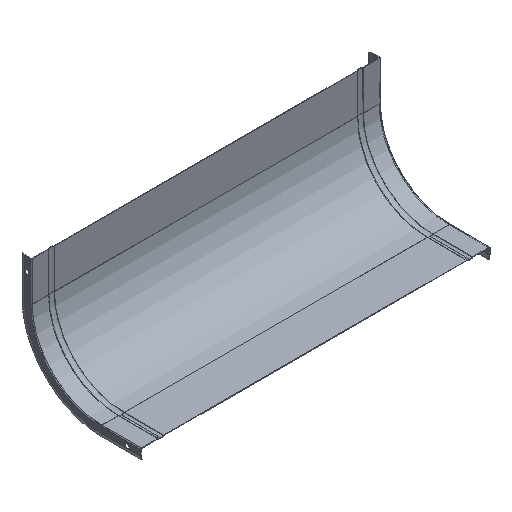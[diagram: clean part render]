
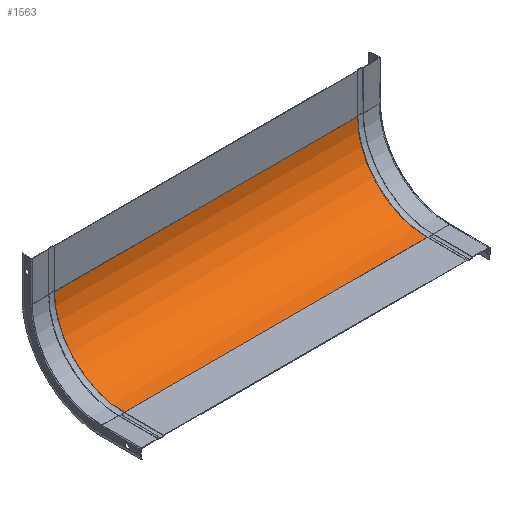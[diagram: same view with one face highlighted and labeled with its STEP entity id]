
A CAD part, isometric view. The second image highlights one B-rep face of the part: STEP entity #1563.
In plain terms, the highlighted cylindrical face has radius 100 mm (diameter 200 mm), a partial arc.
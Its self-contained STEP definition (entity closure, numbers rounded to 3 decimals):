
#23 = ORIENTED_EDGE ( 'NONE', *, *, #2427, .F. ) ;
#51 = CARTESIAN_POINT ( 'NONE',  ( -218., -100., -157. ) ) ;
#184 = DIRECTION ( 'NONE',  ( 0., 0., 1. ) ) ;
#185 = ORIENTED_EDGE ( 'NONE', *, *, #2316, .F. ) ;
#324 = ORIENTED_EDGE ( 'NONE', *, *, #722, .T. ) ;
#405 = CARTESIAN_POINT ( 'NONE',  ( -218., -100., -57. ) ) ;
#435 = CARTESIAN_POINT ( 'NONE',  ( -218., 0., -57. ) ) ;
#437 = CARTESIAN_POINT ( 'NONE',  ( -218., 0., -57. ) ) ;
#540 = DIRECTION ( 'NONE',  ( -1., 0., 0. ) ) ;
#722 = EDGE_CURVE ( 'NONE', #1376, #2277, #1115, .T. ) ;
#784 = AXIS2_PLACEMENT_3D ( 'NONE', #1150, #965, #184 ) ;
#824 = CARTESIAN_POINT ( 'NONE',  ( 218., -100., -157. ) ) ;
#838 = CIRCLE ( 'NONE', #1420, 100. ) ;
#889 = VERTEX_POINT ( 'NONE', #824 ) ;
#965 = DIRECTION ( 'NONE',  ( -1., 0., 0. ) ) ;
#1017 = CARTESIAN_POINT ( 'NONE',  ( -218., -100., -157. ) ) ;
#1030 = DIRECTION ( 'NONE',  ( 1., 0., 0. ) ) ;
#1085 = DIRECTION ( 'NONE',  ( 0., 0., 1. ) ) ;
#1115 = CIRCLE ( 'NONE', #1867, 100. ) ;
#1150 = CARTESIAN_POINT ( 'NONE',  ( 0., -100., -57. ) ) ;
#1174 = CARTESIAN_POINT ( 'NONE',  ( 218., -100., -57. ) ) ;
#1376 = VERTEX_POINT ( 'NONE', #435 ) ;
#1420 = AXIS2_PLACEMENT_3D ( 'NONE', #1174, #2320, #1085 ) ;
#1508 = VECTOR ( 'NONE', #1030, 1000. ) ;
#1563 = ADVANCED_FACE ( 'NONE', ( #2576 ), #2165, .F. ) ;
#1566 = EDGE_LOOP ( 'NONE', ( #185, #324, #1743, #23 ) ) ;
#1743 = ORIENTED_EDGE ( 'NONE', *, *, #2271, .T. ) ;
#1822 = DIRECTION ( 'NONE',  ( 0., 0., 1. ) ) ;
#1867 = AXIS2_PLACEMENT_3D ( 'NONE', #405, #540, #1822 ) ;
#2019 = VECTOR ( 'NONE', #2037, 1000. ) ;
#2037 = DIRECTION ( 'NONE',  ( 1., 0., 0. ) ) ;
#2048 = LINE ( 'NONE', #1017, #1508 ) ;
#2071 = LINE ( 'NONE', #437, #2019 ) ;
#2165 = CYLINDRICAL_SURFACE ( 'NONE', #784, 100. ) ;
#2271 = EDGE_CURVE ( 'NONE', #2277, #889, #2048, .T. ) ;
#2277 = VERTEX_POINT ( 'NONE', #51 ) ;
#2316 = EDGE_CURVE ( 'NONE', #1376, #2346, #2071, .T. ) ;
#2320 = DIRECTION ( 'NONE',  ( -1., 0., 0. ) ) ;
#2346 = VERTEX_POINT ( 'NONE', #2438 ) ;
#2427 = EDGE_CURVE ( 'NONE', #2346, #889, #838, .T. ) ;
#2438 = CARTESIAN_POINT ( 'NONE',  ( 218., 0., -57. ) ) ;
#2576 = FACE_OUTER_BOUND ( 'NONE', #1566, .T. ) ;
